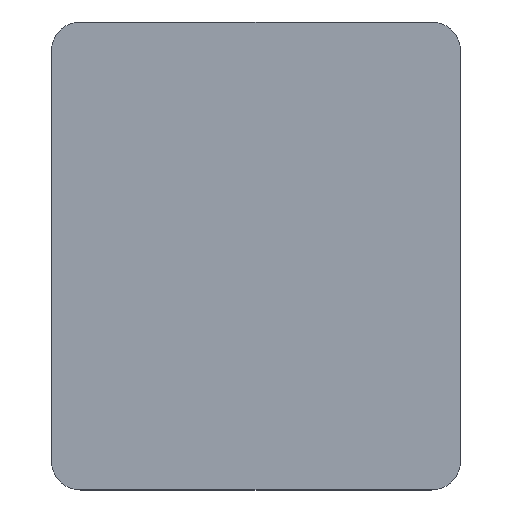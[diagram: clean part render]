
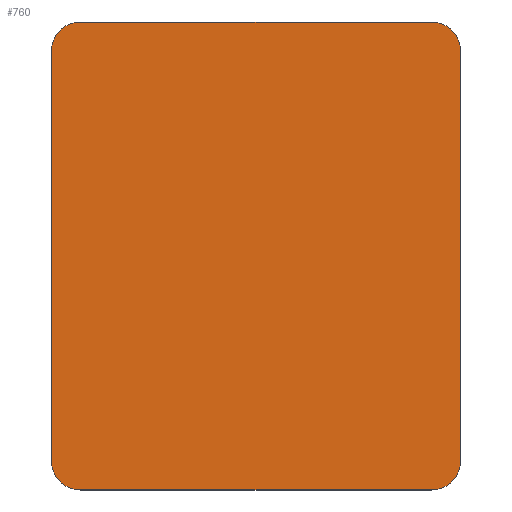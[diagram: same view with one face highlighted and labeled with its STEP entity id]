
A CAD part, top view. The second image highlights one B-rep face of the part: STEP entity #760.
In plain terms, the highlighted planar face has unit normal (0, 0, 1).
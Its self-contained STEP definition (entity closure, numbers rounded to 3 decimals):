
#10=CARTESIAN_POINT('',(0.,0.,0.));
#20=DIRECTION('',(0.,0.,1.));
#30=DIRECTION('',(1.,0.,-0.));
#40=AXIS2_PLACEMENT_3D('',#10,#20,#30);
#50=PLANE('',#40);
#60=CARTESIAN_POINT('',(6.,-1.,0.));
#70=DIRECTION('',(0.,0.,1.));
#80=DIRECTION('',(1.,0.,0.));
#90=AXIS2_PLACEMENT_3D('',#60,#70,#80);
#100=CIRCLE('',#90,1.);
#110=CARTESIAN_POINT('',(7.,-1.,0.));
#120=VERTEX_POINT('',#110);
#130=CARTESIAN_POINT('',(6.,0.,0.));
#140=VERTEX_POINT('',#130);
#150=EDGE_CURVE('',#120,#140,#100,.T.);
#160=ORIENTED_EDGE('',*,*,#150,.T.);
#170=CARTESIAN_POINT('',(7.,-1.,0.));
#180=DIRECTION('',(0.,-1.,0.));
#190=VECTOR('',#180,1.);
#200=LINE('',#170,#190);
#210=CARTESIAN_POINT('',(7.,-15.,0.));
#220=VERTEX_POINT('',#210);
#230=EDGE_CURVE('',#120,#220,#200,.T.);
#240=ORIENTED_EDGE('',*,*,#230,.F.);
#250=CARTESIAN_POINT('',(6.,-15.,0.));
#260=DIRECTION('',(0.,0.,1.));
#270=DIRECTION('',(1.,0.,0.));
#280=AXIS2_PLACEMENT_3D('',#250,#260,#270);
#290=CIRCLE('',#280,1.);
#300=CARTESIAN_POINT('',(6.,-16.,0.));
#310=VERTEX_POINT('',#300);
#320=EDGE_CURVE('',#310,#220,#290,.T.);
#330=ORIENTED_EDGE('',*,*,#320,.T.);
#340=CARTESIAN_POINT('',(6.,-16.,0.));
#350=DIRECTION('',(-1.,0.,0.));
#360=VECTOR('',#350,1.);
#370=LINE('',#340,#360);
#380=CARTESIAN_POINT('',(-6.,-16.,0.));
#390=VERTEX_POINT('',#380);
#400=EDGE_CURVE('',#310,#390,#370,.T.);
#410=ORIENTED_EDGE('',*,*,#400,.F.);
#420=CARTESIAN_POINT('',(-6.,-15.,0.));
#430=DIRECTION('',(0.,0.,1.));
#440=DIRECTION('',(1.,0.,0.));
#450=AXIS2_PLACEMENT_3D('',#420,#430,#440);
#460=CIRCLE('',#450,1.);
#470=CARTESIAN_POINT('',(-7.,-15.,0.));
#480=VERTEX_POINT('',#470);
#490=EDGE_CURVE('',#480,#390,#460,.T.);
#500=ORIENTED_EDGE('',*,*,#490,.T.);
#510=CARTESIAN_POINT('',(-7.,-15.,0.));
#520=DIRECTION('',(0.,1.,0.));
#530=VECTOR('',#520,1.);
#540=LINE('',#510,#530);
#550=CARTESIAN_POINT('',(-7.,-1.,0.));
#560=VERTEX_POINT('',#550);
#570=EDGE_CURVE('',#480,#560,#540,.T.);
#580=ORIENTED_EDGE('',*,*,#570,.F.);
#590=CARTESIAN_POINT('',(-6.,-1.,0.));
#600=DIRECTION('',(0.,0.,1.));
#610=DIRECTION('',(1.,0.,0.));
#620=AXIS2_PLACEMENT_3D('',#590,#600,#610);
#630=CIRCLE('',#620,1.);
#640=CARTESIAN_POINT('',(-6.,0.,0.));
#650=VERTEX_POINT('',#640);
#660=EDGE_CURVE('',#650,#560,#630,.T.);
#670=ORIENTED_EDGE('',*,*,#660,.T.);
#680=CARTESIAN_POINT('',(-6.,0.,0.));
#690=DIRECTION('',(1.,0.,0.));
#700=VECTOR('',#690,1.);
#710=LINE('',#680,#700);
#720=EDGE_CURVE('',#650,#140,#710,.T.);
#730=ORIENTED_EDGE('',*,*,#720,.F.);
#740=EDGE_LOOP('',(#730,#670,#580,#500,#410,#330,#240,#160));
#750=FACE_OUTER_BOUND('',#740,.T.);
#760=ADVANCED_FACE('',(#750),#50,.T.);
